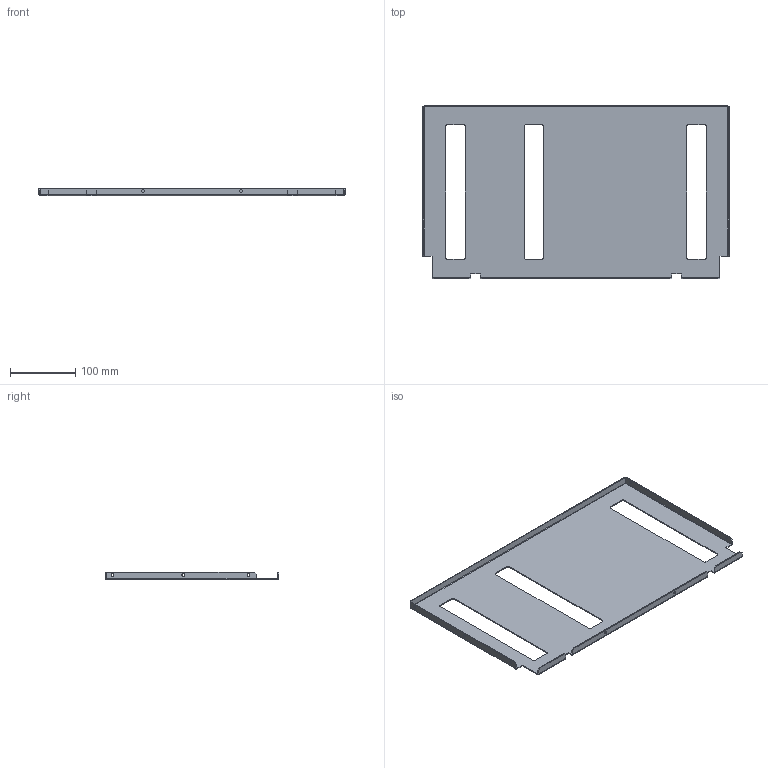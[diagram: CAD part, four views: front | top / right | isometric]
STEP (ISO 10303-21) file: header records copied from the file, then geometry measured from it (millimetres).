
FILE_DESCRIPTION(('CAx-IF Rec.Pracs.---Model Styling and Organization---1.2---2011-12-15','CAx-IF Rec.Pracs.---Geometric and Assembly Validation Properties---4.1---2014-06-16','CAx-IF Rec.Pracs.---PMI Polyline Presentation---2.0---2013-05-24'),'2;1');
FILE_NAME('R5MW6M1BP.stp','2021-05-05T12:59:54+03:00',(''),(''),'STEP Interface 4.4 by CT CoreTechnologie','3D_Evolution4.4 by CT CoreTechnologie','');
FILE_SCHEMA(('AUTOMOTIVE_DESIGN { 1 0 10303 214 1 1 1 1 }'));
Length unit declared in the file: millimetre
Products named in the file (2): R5MW6M1BP; RB.1511.00.00.0_-03
Assembly tree (1 placements, depth 2):
  R5MW6M1BP
    RB.1511.00.00.0_-03
Bounding box: 469 x 266.5 x 12 mm (x, y, z)
Surface area: 241247.7 mm2 (no closed solid volume)
Topology: 0 solids, 1 shells, 103 faces, 277 edges, 176 vertices
Faces by surface type: plane 59, cylinder 40, bspline 4
Entity records: 3384 total; most frequent: CARTESIAN_POINT 634, DIRECTION 559, ORIENTED_EDGE 554, EDGE_CURVE 277, VECTOR 197, LINE 197, AXIS2_PLACEMENT_3D 181, VERTEX_POINT 176
